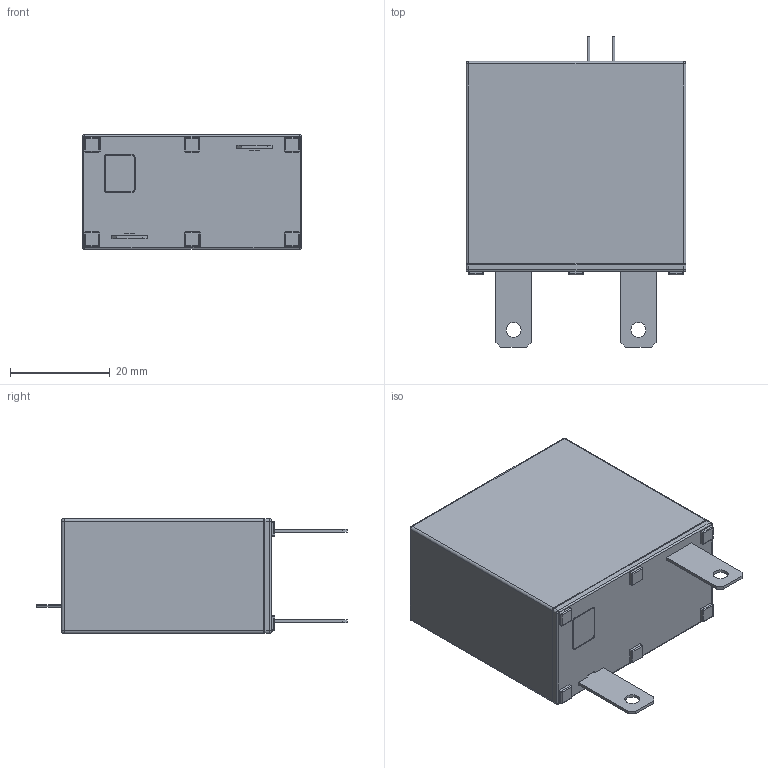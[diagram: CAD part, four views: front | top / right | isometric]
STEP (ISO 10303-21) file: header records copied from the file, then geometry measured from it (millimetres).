
FILE_DESCRIPTION((''),'2;1');
FILE_NAME('TFMOV40K-22-IT-20200812','2020-08-12T',('SET-01114'),(''),'PRO/ENGINEER BY PARAMETRIC TECHNOLOGY CORPORATION, 2012310','PRO/ENGINEER BY PARAMETRIC TECHNOLOGY CORPORATION, 2012310','');
FILE_SCHEMA(('CONFIG_CONTROL_DESIGN','SHAPE_APPEARANCE_LAYERS_GROUPS'));
Length unit declared in the file: millimetre
Products named in the file (1): TFMOV40K-22-IT-20200812
Bounding box: 44 x 62.2 x 23 mm (x, y, z)
Volume: 42613.5 mm3; surface area: 8303.3 mm2
Topology: 1 solids, 2 shells, 224 faces, 504 edges, 297 vertices
Faces by surface type: plane 92, cylinder 87, sphere 28, torus 12, bspline 5
Entity records: 7848 total; most frequent: CARTESIAN_POINT 1184, DIRECTION 1124, ORIENTED_EDGE 1008, PRESENTATION_STYLE_ASSIGNMENT 505, STYLED_ITEM 505, CURVE_STYLE 504, EDGE_CURVE 504, AXIS2_PLACEMENT_3D 407
